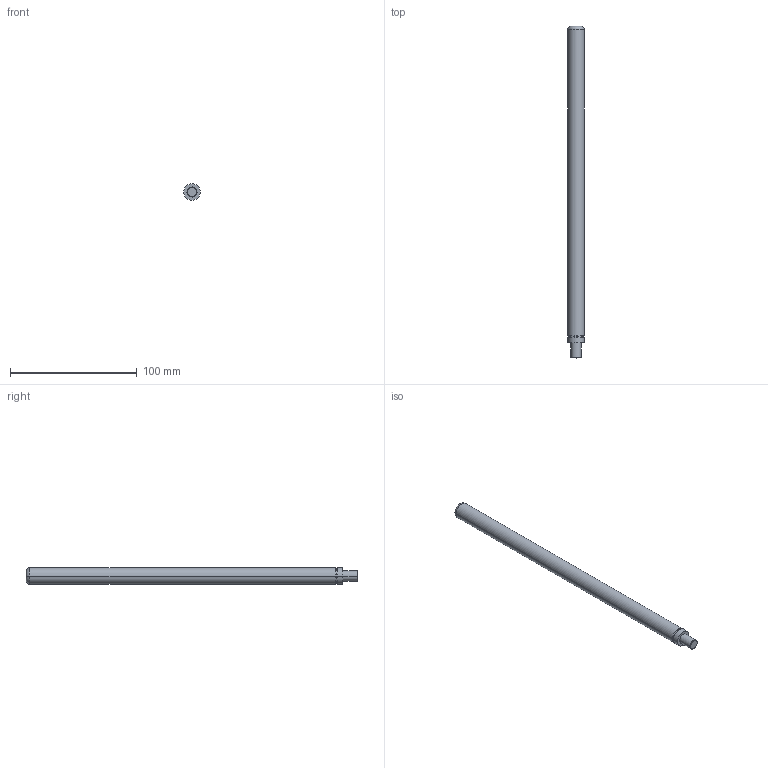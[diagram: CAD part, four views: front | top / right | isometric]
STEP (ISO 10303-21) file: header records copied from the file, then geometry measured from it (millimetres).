
FILE_DESCRIPTION (( 'STEP AP214' ), '1' );
FILE_NAME ('DB-55-250.STEP', '2016-01-18T15:02:39', ( '' ), ( '' ), 'SwSTEP 2.0', 'SolidWorks 2012', '' );
FILE_SCHEMA (( 'AUTOMOTIVE_DESIGN' ));
Length unit declared in the file: millimetre
Products named in the file (1): DB-55-250
Bounding box: 13 x 262 x 13 mm (x, y, z)
Volume: 33700.7 mm3; surface area: 10717.6 mm2
Topology: 1 solids, 1 shells, 17 faces, 32 edges, 18 vertices
Faces by surface type: torus 6, cylinder 6, plane 3, cone 2
Entity records: 464 total; most frequent: DIRECTION 92, CARTESIAN_POINT 68, ORIENTED_EDGE 64, AXIS2_PLACEMENT_3D 42, EDGE_CURVE 32, CIRCLE 24, EDGE_LOOP 18, VERTEX_POINT 18
